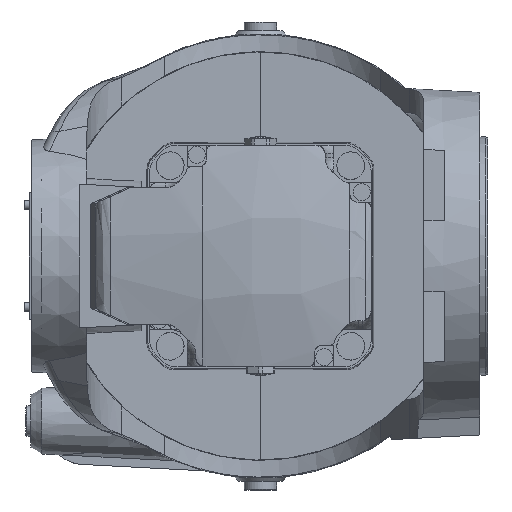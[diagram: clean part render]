
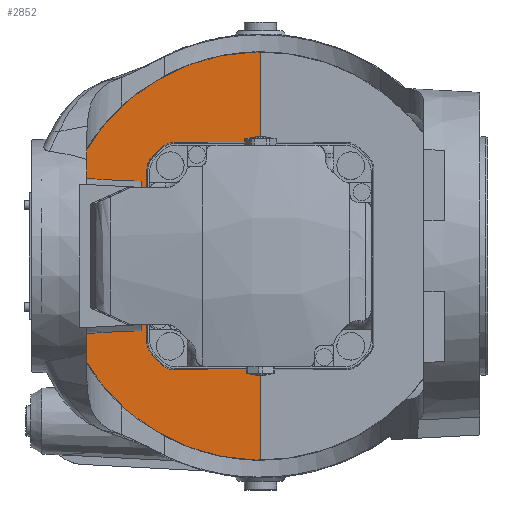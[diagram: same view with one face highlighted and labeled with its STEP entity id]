
A CAD part, left-side view. The second image highlights one B-rep face of the part: STEP entity #2852.
In plain terms, the highlighted planar face has unit normal (-1, -0.026, 0).
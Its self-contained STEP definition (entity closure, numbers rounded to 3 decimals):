
#291 = LINE ( 'NONE', #24489, #4409 ) ;
#943 = PLANE ( 'NONE',  #27711 ) ;
#1003 = EDGE_CURVE ( 'NONE', #5414, #3184, #32480, .T. ) ;
#1483 = CARTESIAN_POINT ( 'NONE',  ( 1911.196, 0.061, 2458.225 ) ) ;
#1660 = CARTESIAN_POINT ( 'NONE',  ( 1909.67, 58.355, 2461.418 ) ) ;
#1749 = CARTESIAN_POINT ( 'NONE',  ( 1909.451, 66.714, 2525. ) ) ;
#1864 = CARTESIAN_POINT ( 'NONE',  ( 1909.451, 66.714, 2474.227 ) ) ;
#2382 = ORIENTED_EDGE ( 'NONE', *, *, #13340, .T. ) ;
#2400 =( BOUNDED_CURVE ( )  B_SPLINE_CURVE ( 3, ( #9774, #7116, #17821, #1864 ),
 .UNSPECIFIED., .F., .T. ) 
 B_SPLINE_CURVE_WITH_KNOTS ( ( 4, 4 ),
 ( 2.357, 3.142 ),
 .UNSPECIFIED. ) 
 CURVE ( )  GEOMETRIC_REPRESENTATION_ITEM ( )  RATIONAL_B_SPLINE_CURVE ( ( 1., 0.949, 0.949, 1. ) ) 
 REPRESENTATION_ITEM ( '' )  );
#2403 = DIRECTION ( 'NONE',  ( 0.026, -1., 0.001 ) ) ;
#2564 = CARTESIAN_POINT ( 'NONE',  ( 1909.48, 65.613, 2581.314 ) ) ;
#2852 = ADVANCED_FACE ( 'NONE', ( #17076 ), #943, .T. ) ;
#2882 = VERTEX_POINT ( 'NONE', #23062 ) ;
#3158 = CARTESIAN_POINT ( 'NONE',  ( 1909.868, 50.773, 2458.271 ) ) ;
#3184 = VERTEX_POINT ( 'NONE', #19111 ) ;
#4317 = EDGE_CURVE ( 'NONE', #25195, #19536, #9353, .T. ) ;
#4409 = VECTOR ( 'NONE', #2403, 1000. ) ;
#4888 = CARTESIAN_POINT ( 'NONE',  ( 1909.868, 50.773, 2458.271 ) ) ;
#5414 = VERTEX_POINT ( 'NONE', #11828 ) ;
#5840 = DIRECTION ( 'NONE',  ( 0.026, -1., 0. ) ) ;
#7116 = CARTESIAN_POINT ( 'NONE',  ( 1909.48, 65.613, 2468.686 ) ) ;
#7360 = LINE ( 'NONE', #1749, #21890 ) ;
#7708 = CARTESIAN_POINT ( 'NONE',  ( 1909.723, 56.318, 2590.621 ) ) ;
#8845 = ORIENTED_EDGE ( 'NONE', *, *, #1003, .T. ) ;
#8963 = VERTEX_POINT ( 'NONE', #15350 ) ;
#9136 = CARTESIAN_POINT ( 'NONE',  ( 1904.901, 240.45, 2645.225 ) ) ;
#9353 = LINE ( 'NONE', #9519, #28622 ) ;
#9376 = ORIENTED_EDGE ( 'NONE', *, *, #4317, .T. ) ;
#9492 = CARTESIAN_POINT ( 'NONE',  ( 1904.901, 240.45, 2404.775 ) ) ;
#9519 = CARTESIAN_POINT ( 'NONE',  ( 1911.198, 0., 2525. ) ) ;
#9726 = VECTOR ( 'NONE', #11070, 1000. ) ;
#9774 = CARTESIAN_POINT ( 'NONE',  ( 1909.533, 63.578, 2466.649 ) ) ;
#9896 = EDGE_CURVE ( 'NONE', #19536, #10495, #24242, .T. ) ;
#10495 = VERTEX_POINT ( 'NONE', #33594 ) ;
#10662 = VERTEX_POINT ( 'NONE', #11916 ) ;
#10911 =( BOUNDED_CURVE ( )  B_SPLINE_CURVE ( 3, ( #3158, #32134, #27192, #24392 ),
 .UNSPECIFIED., .F., .F. ) 
 B_SPLINE_CURVE_WITH_KNOTS ( ( 4, 4 ),
 ( 1.572, 2.357 ),
 .UNSPECIFIED. ) 
 CURVE ( )  GEOMETRIC_REPRESENTATION_ITEM ( )  RATIONAL_B_SPLINE_CURVE ( ( 1., 0.949, 0.949, 1. ) ) 
 REPRESENTATION_ITEM ( '' )  );
#11070 = DIRECTION ( 'NONE',  ( 0.019, -0.707, 0.707 ) ) ;
#11483 = DIRECTION ( 'NONE',  ( 0., 0., 1. ) ) ;
#11828 = CARTESIAN_POINT ( 'NONE',  ( 1909.533, 63.578, 2583.351 ) ) ;
#11916 = CARTESIAN_POINT ( 'NONE',  ( 1911.198, 0., 2458.225 ) ) ;
#11986 = ORIENTED_EDGE ( 'NONE', *, *, #25252, .T. ) ;
#12025 = VERTEX_POINT ( 'NONE', #17639 ) ;
#12587 = EDGE_LOOP ( 'NONE', ( #19414, #9376, #12921, #28389, #13080, #14872, #2382, #27391, #33531, #32844, #8845, #11986 ) ) ;
#12650 = DIRECTION ( 'NONE',  ( 0., 0., 1. ) ) ;
#12921 = ORIENTED_EDGE ( 'NONE', *, *, #9896, .T. ) ;
#12980 = CARTESIAN_POINT ( 'NONE',  ( 1911.198, 0., 2591.775 ) ) ;
#13080 = ORIENTED_EDGE ( 'NONE', *, *, #30584, .T. ) ;
#13340 = EDGE_CURVE ( 'NONE', #13417, #2882, #27111, .T. ) ;
#13417 = VERTEX_POINT ( 'NONE', #1660 ) ;
#14834 = DIRECTION ( 'NONE',  ( -0.026, 1., 0.001 ) ) ;
#14872 = ORIENTED_EDGE ( 'NONE', *, *, #27574, .T. ) ;
#15350 = CARTESIAN_POINT ( 'NONE',  ( 1909.451, 66.714, 2575.773 ) ) ;
#15947 = CARTESIAN_POINT ( 'NONE',  ( 1909.793, 53.656, 2591.726 ) ) ;
#16750 = DIRECTION ( 'NONE',  ( -0.019, 0.707, 0.707 ) ) ;
#16915 = LINE ( 'NONE', #1483, #26615 ) ;
#17076 = FACE_OUTER_BOUND ( 'NONE', #12587, .T. ) ;
#17340 = EDGE_CURVE ( 'NONE', #12025, #8963, #7360, .T. ) ;
#17639 = CARTESIAN_POINT ( 'NONE',  ( 1909.451, 66.714, 2474.227 ) ) ;
#17821 = CARTESIAN_POINT ( 'NONE',  ( 1909.451, 66.714, 2471.347 ) ) ;
#17913 = DIRECTION ( 'NONE',  ( 0., 0., 1. ) ) ;
#18402 = CARTESIAN_POINT ( 'NONE',  ( 1911.198, 0., 2645.31 ) ) ;
#18880 = CARTESIAN_POINT ( 'NONE',  ( 1909.451, 66.714, 2575.773 ) ) ;
#19111 = CARTESIAN_POINT ( 'NONE',  ( 1909.67, 58.355, 2588.582 ) ) ;
#19414 = ORIENTED_EDGE ( 'NONE', *, *, #26893, .T. ) ;
#19536 = VERTEX_POINT ( 'NONE', #18402 ) ;
#19694 = DIRECTION ( 'NONE',  ( -1., -0.026, 0. ) ) ;
#21781 = CARTESIAN_POINT ( 'NONE',  ( 1911.198, 0., 2525. ) ) ;
#21890 = VECTOR ( 'NONE', #12650, 1000. ) ;
#22002 = CARTESIAN_POINT ( 'NONE',  ( 1909.451, 66.714, 2578.653 ) ) ;
#22586 =( BOUNDED_CURVE ( )  B_SPLINE_CURVE ( 3, ( #18880, #22002, #2564, #32736 ),
 .UNSPECIFIED., .F., .F. ) 
 B_SPLINE_CURVE_WITH_KNOTS ( ( 4, 4 ),
 ( 3.142, 3.926 ),
 .UNSPECIFIED. ) 
 CURVE ( )  GEOMETRIC_REPRESENTATION_ITEM ( )  RATIONAL_B_SPLINE_CURVE ( ( 1., 0.949, 0.949, 1. ) ) 
 REPRESENTATION_ITEM ( '' )  );
#23062 = CARTESIAN_POINT ( 'NONE',  ( 1909.533, 63.578, 2466.649 ) ) ;
#23223 = LINE ( 'NONE', #28290, #33701 ) ;
#23679 = CARTESIAN_POINT ( 'NONE',  ( 1909.868, 50.773, 2591.729 ) ) ;
#24121 =( BOUNDED_CURVE ( )  B_SPLINE_CURVE ( 3, ( #28929, #7708, #15947, #23679 ),
 .UNSPECIFIED., .F., .F. ) 
 B_SPLINE_CURVE_WITH_KNOTS ( ( 4, 4 ),
 ( 3.926, 4.711 ),
 .UNSPECIFIED. ) 
 CURVE ( )  GEOMETRIC_REPRESENTATION_ITEM ( )  RATIONAL_B_SPLINE_CURVE ( ( 1., 0.949, 0.949, 1. ) ) 
 REPRESENTATION_ITEM ( '' )  );
#24242 =( BOUNDED_CURVE ( )  B_SPLINE_CURVE ( 3, ( #25108, #9136, #9492, #30583 ),
 .UNSPECIFIED., .F., .F. ) 
 B_SPLINE_CURVE_WITH_KNOTS ( ( 4, 4 ),
 ( 1.571, 4.712 ),
 .UNSPECIFIED. ) 
 CURVE ( )  GEOMETRIC_REPRESENTATION_ITEM ( )  RATIONAL_B_SPLINE_CURVE ( ( 1., 0.334, 0.334, 1. ) ) 
 REPRESENTATION_ITEM ( '' )  );
#24392 = CARTESIAN_POINT ( 'NONE',  ( 1909.67, 58.355, 2461.418 ) ) ;
#24489 = CARTESIAN_POINT ( 'NONE',  ( 1911.196, 0.061, 2591.775 ) ) ;
#24646 = CARTESIAN_POINT ( 'NONE',  ( 1909.601, 60.985, 2464.052 ) ) ;
#24909 = VECTOR ( 'NONE', #16750, 1000. ) ;
#25108 = CARTESIAN_POINT ( 'NONE',  ( 1911.198, 0., 2645.31 ) ) ;
#25195 = VERTEX_POINT ( 'NONE', #12980 ) ;
#25252 = EDGE_CURVE ( 'NONE', #3184, #31734, #24121, .T. ) ;
#25926 = VERTEX_POINT ( 'NONE', #4888 ) ;
#26306 = EDGE_CURVE ( 'NONE', #8963, #5414, #22586, .T. ) ;
#26615 = VECTOR ( 'NONE', #14834, 1000. ) ;
#26893 = EDGE_CURVE ( 'NONE', #31734, #25195, #291, .T. ) ;
#27111 = LINE ( 'NONE', #24646, #24909 ) ;
#27192 = CARTESIAN_POINT ( 'NONE',  ( 1909.723, 56.318, 2459.379 ) ) ;
#27391 = ORIENTED_EDGE ( 'NONE', *, *, #34563, .T. ) ;
#27574 = EDGE_CURVE ( 'NONE', #25926, #13417, #10911, .T. ) ;
#27711 = AXIS2_PLACEMENT_3D ( 'NONE', #21781, #19694, #5840 ) ;
#28290 = CARTESIAN_POINT ( 'NONE',  ( 1911.198, 0., 2525. ) ) ;
#28389 = ORIENTED_EDGE ( 'NONE', *, *, #32468, .T. ) ;
#28408 = CARTESIAN_POINT ( 'NONE',  ( 1909.868, 50.773, 2591.729 ) ) ;
#28622 = VECTOR ( 'NONE', #11483, 1000. ) ;
#28929 = CARTESIAN_POINT ( 'NONE',  ( 1909.67, 58.355, 2588.582 ) ) ;
#30373 = CARTESIAN_POINT ( 'NONE',  ( 1909.601, 60.985, 2585.948 ) ) ;
#30583 = CARTESIAN_POINT ( 'NONE',  ( 1911.198, 0., 2404.69 ) ) ;
#30584 = EDGE_CURVE ( 'NONE', #10662, #25926, #16915, .T. ) ;
#31734 = VERTEX_POINT ( 'NONE', #28408 ) ;
#32134 = CARTESIAN_POINT ( 'NONE',  ( 1909.793, 53.656, 2458.274 ) ) ;
#32468 = EDGE_CURVE ( 'NONE', #10495, #10662, #23223, .T. ) ;
#32480 = LINE ( 'NONE', #30373, #9726 ) ;
#32736 = CARTESIAN_POINT ( 'NONE',  ( 1909.533, 63.578, 2583.351 ) ) ;
#32844 = ORIENTED_EDGE ( 'NONE', *, *, #26306, .T. ) ;
#33531 = ORIENTED_EDGE ( 'NONE', *, *, #17340, .T. ) ;
#33594 = CARTESIAN_POINT ( 'NONE',  ( 1911.198, 0., 2404.69 ) ) ;
#33701 = VECTOR ( 'NONE', #17913, 1000. ) ;
#34563 = EDGE_CURVE ( 'NONE', #2882, #12025, #2400, .T. ) ;
